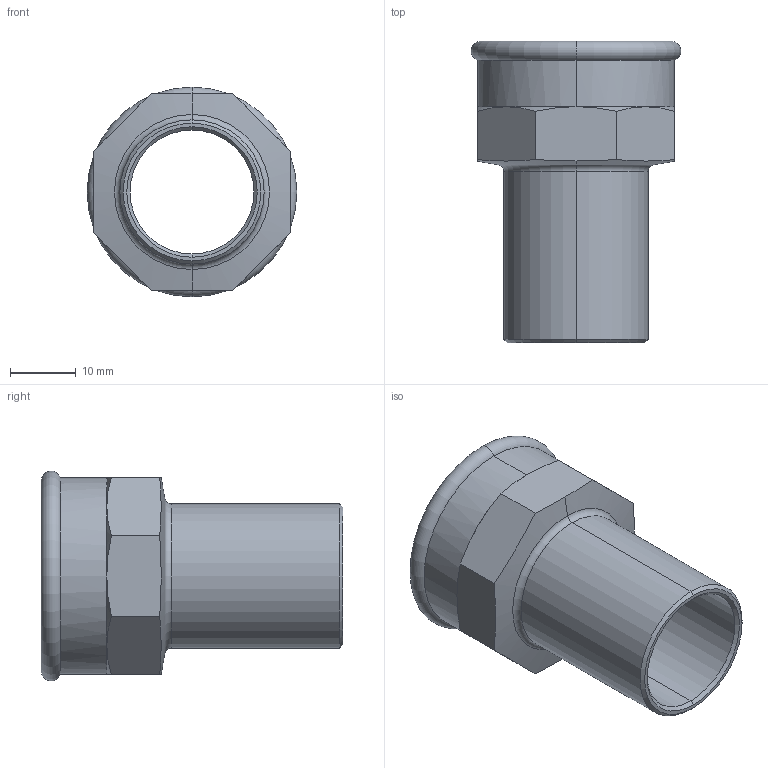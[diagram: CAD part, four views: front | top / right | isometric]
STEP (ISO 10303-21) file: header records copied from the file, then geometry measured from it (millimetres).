
FILE_DESCRIPTION (( 'STEP AP203' ), '1' );
FILE_NAME ('SP4281G Ø22 3-4.STEP', '2017-04-26T09:15:38', ( '' ), ( '' ), 'SwSTEP 2.0', 'SolidWorks 2016', '' );
FILE_SCHEMA (( 'CONFIG_CONTROL_DESIGN' ));
Length unit declared in the file: millimetre
Products named in the file (1): SP4281G Ø22 3-4
Bounding box: 31.99 x 46 x 31.99 mm (x, y, z)
Volume: 8266.2 mm3; surface area: 7508.6 mm2
Topology: 1 solids, 1 shells, 39 faces, 86 edges, 50 vertices
Faces by surface type: cone 16, plane 11, cylinder 8, torus 4
Entity records: 1223 total; most frequent: CARTESIAN_POINT 310, DIRECTION 176, ORIENTED_EDGE 172, EDGE_CURVE 86, AXIS2_PLACEMENT_3D 76, VERTEX_POINT 50, EDGE_LOOP 42, ADVANCED_FACE 39
